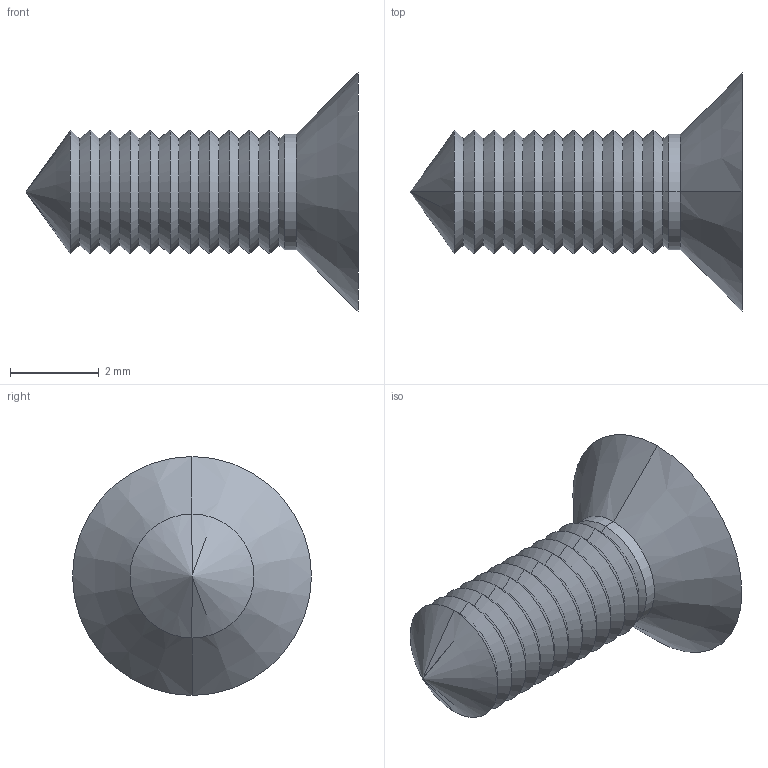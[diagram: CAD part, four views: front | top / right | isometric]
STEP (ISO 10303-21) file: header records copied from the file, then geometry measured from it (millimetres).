
FILE_DESCRIPTION (( 'STEP AP214' ), '1' );
FILE_NAME ('Cargol 2,8x7,5 PP61A.STEP', '2017-07-27T09:32:28', ( 'aaa' ), ( '' ), 'SwSTEP 2.0', 'SolidWorks 2013', '' );
FILE_SCHEMA (( 'AUTOMOTIVE_DESIGN' ));
Length unit declared in the file: millimetre
Products named in the file (1): Cargol 2,8x7,5 PP61A
Bounding box: 7.5 x 5.4 x 5.4 mm (x, y, z)
Volume: 47 mm3; surface area: 112.9 mm2
Topology: 1 solids, 1 shells, 64 faces, 138 edges, 75 vertices
Faces by surface type: cone 48, plane 14, cylinder 2
Entity records: 1708 total; most frequent: DIRECTION 316, CARTESIAN_POINT 276, ORIENTED_EDGE 272, EDGE_CURVE 136, AXIS2_PLACEMENT_3D 115, VECTOR 86, LINE 86, VERTEX_POINT 75
